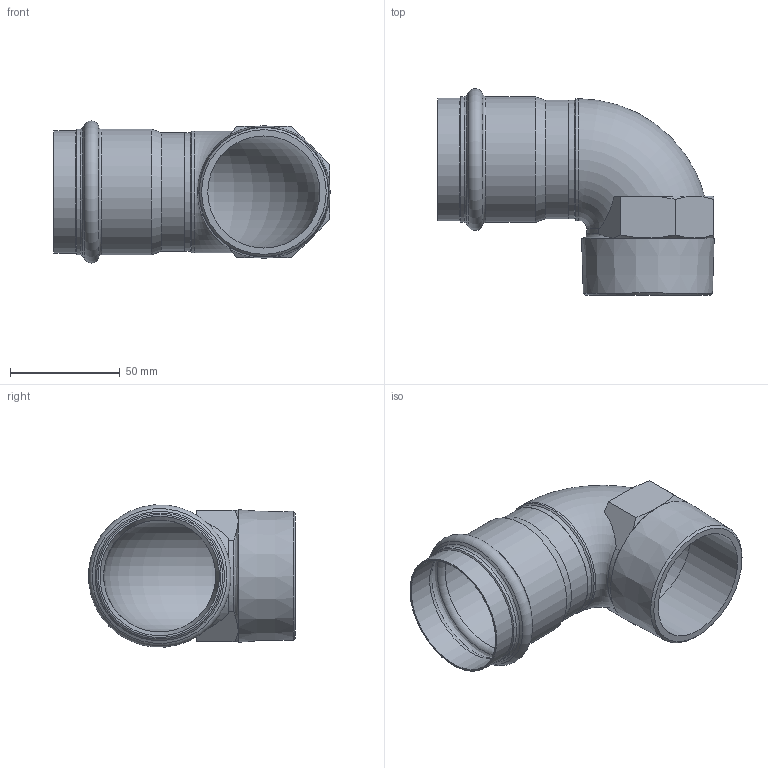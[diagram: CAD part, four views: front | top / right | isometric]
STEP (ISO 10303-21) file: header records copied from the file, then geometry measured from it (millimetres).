
FILE_DESCRIPTION((''),'2;1');
FILE_NAME('G:\Technics\CAD\Bauteile\054\69092AG542(1).stp','2008-03-06T15:29:17',('herberg'),(''),'Autodesk Inventor 2008','Autodesk Inventor 2008','');
FILE_SCHEMA(('AUTOMOTIVE_DESIGN { 1 0 10303 214 1 1 1 1 }'));
Length unit declared in the file: millimetre
Products named in the file (3): 69092AG542(1); G_69092AG542(1); 6924354HM(1)
Assembly tree (2 placements, depth 2):
  69092AG542(1)
    G_69092AG542(1)
    6924354HM(1)
Bounding box: 125.65 x 93.98 x 64.57 mm (x, y, z)
Volume: 63373 mm3; surface area: 52853.9 mm2
Topology: 2 solids, 2 shells, 53 faces, 116 edges, 68 vertices
Faces by surface type: cone 18, plane 14, cylinder 11, bspline 5, torus 5
Full cylindrical faces by diameter (mm): 51 x2, 54 x2, 54.35 x2, 55.4 x1, 55.95 x1, 57.35 x2
Entity records: 1708 total; most frequent: CARTESIAN_POINT 648, DIRECTION 212, ORIENTED_EDGE 172, AXIS2_PLACEMENT_3D 98, EDGE_CURVE 86, EDGE_LOOP 85, VERTEX_POINT 65, FACE_OUTER_BOUND 53
